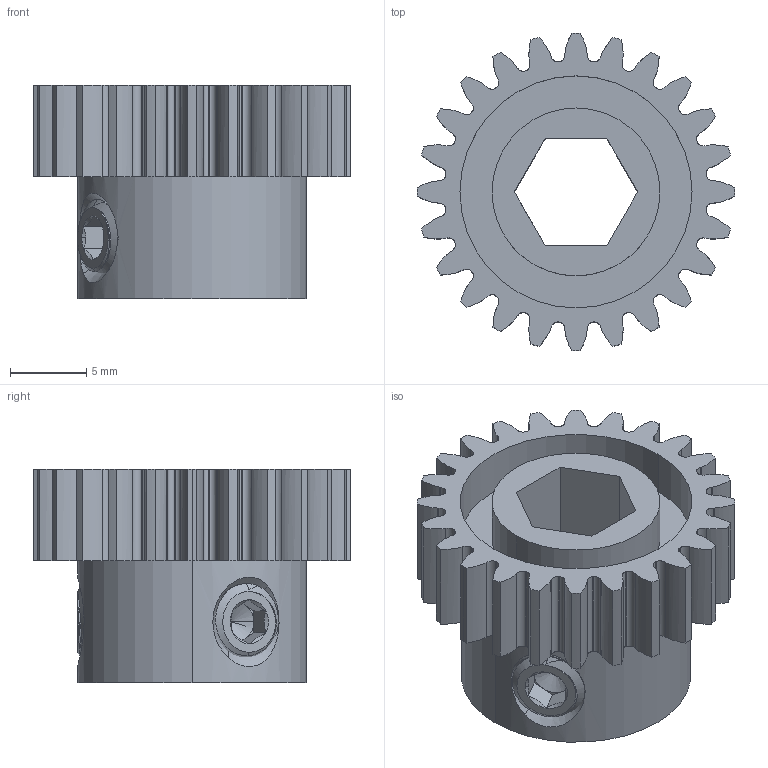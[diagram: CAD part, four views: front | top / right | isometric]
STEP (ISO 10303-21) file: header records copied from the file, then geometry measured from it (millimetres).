
FILE_DESCRIPTION (( 'STEP AP203' ), '1' );
FILE_NAME ('2303-4008-0024 assembly.STEP', '2021-03-08T15:25:56', ( '' ), ( '' ), 'SwSTEP 2.0', 'SolidWorks 2016', '' );
FILE_SCHEMA (( 'CONFIG_CONTROL_DESIGN' ));
Length unit declared in the file: millimetre
Products named in the file (3): 2303-4008-0024 assembly; 2806-0005-0004_91390A117; 2303-4008-0024
Assembly tree (3 placements, depth 2):
  2303-4008-0024 assembly
    2303-4008-0024
    2806-0005-0004_91390A117  x2
Bounding box: 20.8 x 20.8 x 14 mm (x, y, z)
Volume: 2239.8 mm3; surface area: 2504.1 mm2
Topology: 3 solids, 3 shells, 350 faces, 983 edges, 636 vertices
Faces by surface type: cylinder 114, bspline 112, plane 87, cone 37
Entity records: 18740 total; most frequent: CARTESIAN_POINT 11327, ORIENTED_EDGE 1770, DIRECTION 1089, EDGE_CURVE 885, VERTEX_POINT 583, VECTOR 391, LINE 391, AXIS2_PLACEMENT_3D 349
